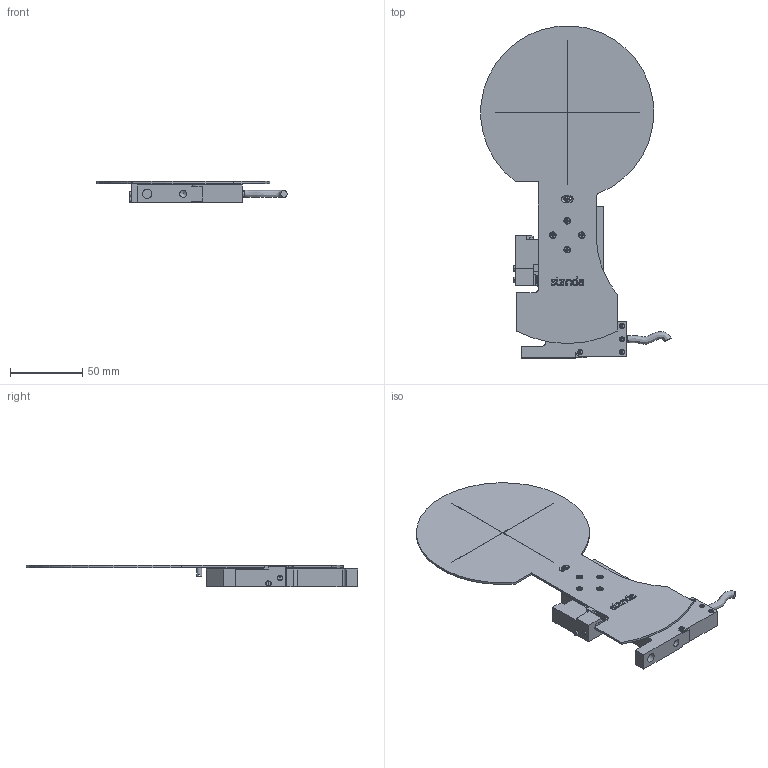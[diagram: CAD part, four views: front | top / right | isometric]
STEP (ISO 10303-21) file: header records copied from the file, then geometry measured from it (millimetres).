
FILE_DESCRIPTION(/* description */ (''),/* implementation_level */ '2;1');
FILE_NAME(/* name */ 'C:\Users\dsgn39\Desktop\Internetui\8MDS-120\8MDS-120.stp',/* time_stamp */ '2017-07-24T14:05:34+03:00',/* author */ ('dsgn39'),/* organization */ (''),/* preprocessor_version */ 'ST-DEVELOPER v15.2',/* originating_system */ 'Autodesk Inventor 2014',/* authorisation */ '');
FILE_SCHEMA (('AUTOMOTIVE_DESIGN { 1 0 10303 214 3 1 1 }'));
Length unit declared in the file: millimetre
Products named in the file (2): Part3; Assembly1
Bounding box: 131.73 x 229.93 x 14.7 mm (x, y, z)
Surface area: 50412.8 mm2
Topology: 20 solids, 21 shells, 625 faces, 1663 edges, 1102 vertices
Faces by surface type: plane 357, cylinder 121, bspline 72, cone 69, torus 6
Full cylindrical faces by diameter (mm): 1.221 x4, 1.411 x1, 1.5 x2, 1.567 x1, 1.783 x2, 1.9 x8, 2 x10, 2.1 x1, 2.2 x1, 2.3 x4, 2.4 x2, 2.459 x5, 3.5 x3, 4.917 x1, 5 x1, 6.4 x1, 9 x1, 9.459 x1, 10 x1, 28 x1
Entity records: 19150 total; most frequent: CARTESIAN_POINT 4815, ORIENTED_EDGE 2968, DIRECTION 2719, EDGE_CURVE 1479, VERTEX_POINT 1020, AXIS2_PLACEMENT_3D 907, LINE 905, VECTOR 905
